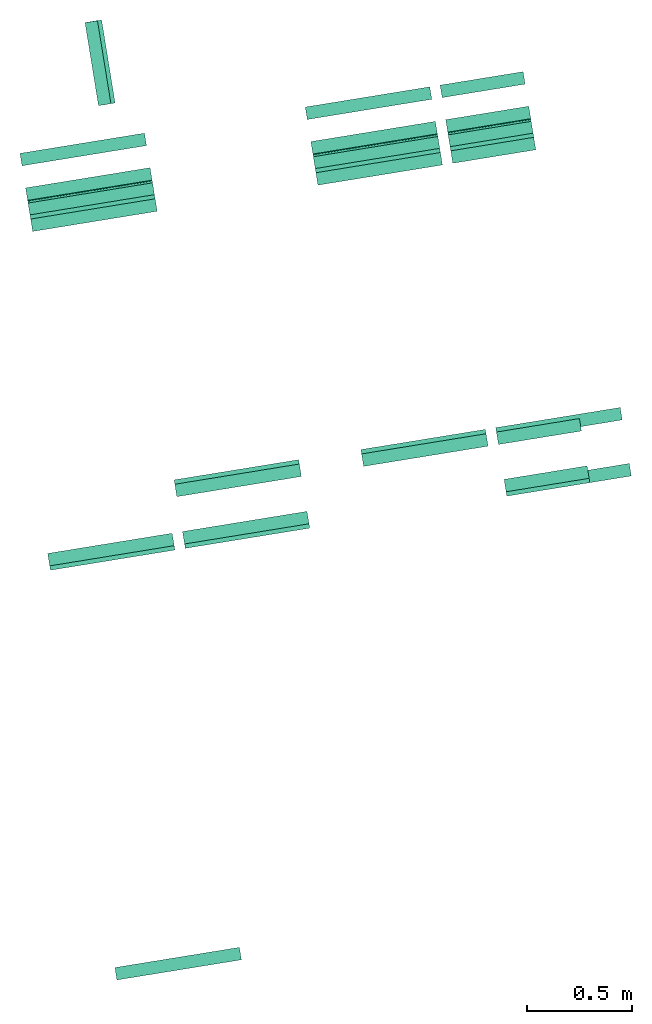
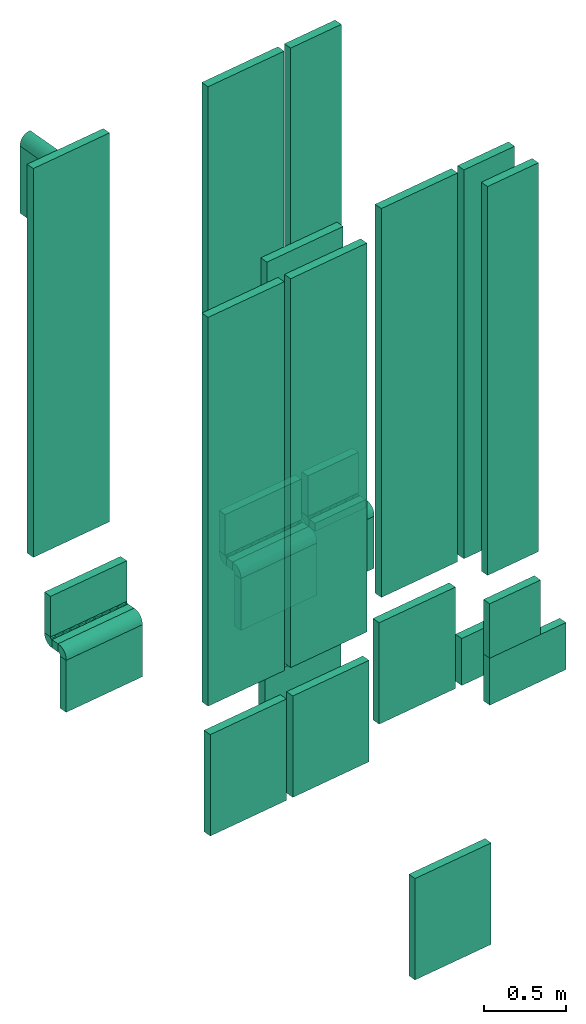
# One storey: 27 flow segments, 7 flow fittings.
"""IFC2X3 building model written with IfcOpenShell, lengths in millimetres."""

from ifc_helpers import new_model, entity, si_unit, converted_unit, derived_unit, direction, frame, frame_2d, origin, origin_with_axes, origin_2d_with_axis, place, context, subcontext, project, spatial, polyline, circle_curve, parameter, trimmed, segment, composite_curve, rectangle, outline, extrude, faceted_brep, source, transform, mapped, material, type_object, element, save


model = new_model("IFC2X3")

# Units and contexts
plan_context = context("Plan", 3, precision=1e-05, world=origin_with_axes())
model_context = context("Model", 3, precision=0.01, world=origin(), true_north=direction((6.12323399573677e-17, 1.0)))
body_context = subcontext(model_context, "Body", "Model", "MODEL_VIEW")
ifc_project = project(units=[converted_unit("PLANEANGLEUNIT", "DEGREE", entity("IfcPositiveLengthMeasure", 0.0174532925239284), si_unit("PLANEANGLEUNIT", "RADIAN"), dimensions=[0, 0, 0, 0, 0, 0, 0]), si_unit("AREAUNIT", "SQUARE_METRE"), si_unit("LENGTHUNIT", "METRE", prefix="MILLI"), si_unit("MASSUNIT", "GRAM", prefix="KILO"), si_unit("POWERUNIT", "WATT"), si_unit("PRESSUREUNIT", "PASCAL", prefix="KILO"), si_unit("FORCEUNIT", "NEWTON", prefix="KILO"), si_unit("ELECTRICVOLTAGEUNIT", "VOLT"), si_unit("ELECTRICCURRENTUNIT", "AMPERE"), si_unit("THERMODYNAMICTEMPERATUREUNIT", "DEGREE_CELSIUS"), si_unit("TIMEUNIT", "SECOND"), si_unit("VOLUMEUNIT", "CUBIC_METRE"), derived_unit("LINEARVELOCITYUNIT", [(si_unit("LENGTHUNIT", "METRE"), 1), (si_unit("TIMEUNIT", "SECOND"), -1)]), derived_unit("VOLUMETRICFLOWRATEUNIT", [(si_unit("VOLUMEUNIT", "CUBIC_METRE"), 1), (si_unit("TIMEUNIT", "SECOND"), -1)]), derived_unit("THERMALTRANSMITTANCEUNIT", [(si_unit("POWERUNIT", "WATT"), 1), (si_unit("THERMODYNAMICTEMPERATUREUNIT", "KELVIN"), -1), (si_unit("AREAUNIT", "SQUARE_METRE"), -1)]), derived_unit("SOUNDPRESSUREUNIT", [(si_unit("PRESSUREUNIT", "PASCAL"), 1)])], contexts=[model_context, plan_context])

# Site, building, storey
site_placement = place(None, frame((-0.219946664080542, 0.12226179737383, 0.0), z_axis=(0.0, 0.0, 1.0), x_axis=(-0.160236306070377, 0.987078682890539, 0.0)))
site = spatial("IfcSite", under=ifc_project, at=site_placement, Name="Default", CompositionType="ELEMENT")
building_placement = place(site_placement, origin_with_axes())
building = spatial("IfcBuilding", under=site, at=building_placement, CompositionType="ELEMENT")
storey_placement = place(building_placement, frame((0.0, 0.0, 44700.0000000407), z_axis=(0.0, 0.0, 1.0), x_axis=(1.0, 0.0, 0.0)))
storey = spatial("IfcBuildingStorey", under=building, at=storey_placement, Name="Nivå B", CompositionType="ELEMENT", Elevation=44700.0000000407)

# Flow fittings
ifc_material = material(Name="<Unnamed>")
cable_carrier_fitting_type_1 = type_object("IfcCableCarrierFittingType", Name="MC_Ladder Vertical Outside Bend:Standard 10mm", PredefinedType="NOTDEFINED", material=ifc_material)
shared_shape_1 = source(origin(), body_context, "Body", "SweptSolid", [
    extrude(outline(composite_curve([segment(polyline([(-27.5000000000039, -52.4999999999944), (-17.5000000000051, -52.4999999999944)]), True, "CONTINUOUS"), segment(trimmed(circle_curve(frame_2d((-17.4999999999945, 17.5000000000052), x_axis=(0.0, -1.0)), 69.9999999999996), [parameter(0.0)], [parameter(90.0)], True, "PARAMETER"), True, "CONTINUOUS"), segment(polyline([(52.5000000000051, 17.4999999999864), (52.5000000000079, 27.4999999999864)]), True, "CONTINUOUS"), segment(polyline([(52.5000000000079, 27.4999999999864), (-7.49999999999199, 27.5000000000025)]), True, "CONTINUOUS"), segment(polyline([(-7.49999999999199, 27.5000000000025), (-7.4999999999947, 17.5000000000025)]), True, "CONTINUOUS"), segment(trimmed(circle_curve(frame_2d((-17.4999999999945, 17.5000000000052), x_axis=(0.0, -1.0)), 9.99999999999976), [parameter(0.0)], [parameter(90.0)], True, "PARAMETER"), False, "CONTINUOUS"), segment(polyline([(-17.5000000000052, 7.50000000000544), (-27.5000000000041, 7.50000000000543)]), True, "CONTINUOUS"), segment(polyline([(-27.5000000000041, 7.50000000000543), (-27.5000000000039, -52.4999999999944)]), True, "CONTINUOUS")], self_intersect=False)), frame((-22.4999999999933, 22.4999999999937, -300.0)), (0.0, 0.0, 1.0), 600.0),
])
for number, where, z_axis, x_axis, name in (
    (1, (770497.097626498, -501552.493066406, 13709.999999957), (0.0, 1.0, 0.0), (0.0, 0.0, 1.0), "MC_Ladder Vertical Outside Bend:Standard 10mm"),
    (2, (770497.097626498, -502927.465783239, 13709.999999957), (0.0, 1.0, 0.0), (0.0, 0.0, 1.0), "MC_Ladder Vertical Outside Bend:Standard 10mm"),
):
    element("IfcFlowFitting", number, at=place(storey_placement, frame(where, z_axis=z_axis, x_axis=x_axis)), inside=storey, type_object=cable_carrier_fitting_type_1, material=ifc_material, Name=name, ObjectType="MC_Ladder Vertical Outside Bend:Standard 10mm", context=body_context, shape_type="MappedRepresentation", body=[
        mapped(shared_shape_1, transform((0.0, 0.0, 0.0), scale=1.0)),
    ])
cable_carrier_fitting_type_2 = type_object("IfcCableCarrierFittingType", Name="MC_Ladder Vertical Inside Bend_Short:Standard 10mm", PredefinedType="NOTDEFINED", material=ifc_material)
shared_shape_2 = source(origin(), body_context, "Body", "SweptSolid", [
    extrude(outline(composite_curve([segment(polyline([(-22.2500000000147, -50.7499999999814), (-19.2500000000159, -50.7499999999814)]), True, "CONTINUOUS"), segment(trimmed(circle_curve(frame_2d((-19.2499999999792, 19.2500000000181), x_axis=(0.0, -1.0)), 69.9999999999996), [parameter(0.0)], [parameter(90.0)], True, "PARAMETER"), True, "CONTINUOUS"), segment(polyline([(50.7500000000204, 19.2499999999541), (50.7500000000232, 22.2499999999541)]), True, "CONTINUOUS"), segment(polyline([(50.7500000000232, 22.2499999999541), (-9.24999999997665, 22.250000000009)]), True, "CONTINUOUS"), segment(polyline([(-9.24999999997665, 22.250000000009), (-9.2499999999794, 19.250000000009)]), True, "CONTINUOUS"), segment(trimmed(circle_curve(frame_2d((-19.2499999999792, 19.2500000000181), x_axis=(0.0, -1.0)), 9.99999999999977), [parameter(0.0)], [parameter(90.0)], True, "PARAMETER"), False, "CONTINUOUS"), segment(polyline([(-19.2500000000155, 9.25000000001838), (-22.2500000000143, 9.2500000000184)]), True, "CONTINUOUS"), segment(polyline([(-22.2500000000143, 9.2500000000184), (-22.2500000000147, -50.7499999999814)]), True, "CONTINUOUS")], self_intersect=False)), frame((-20.7499999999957, 20.7499999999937, -300.0)), (0.0, 0.0, 1.0), 600.000000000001),
])
for number, where, z_axis, x_axis, name in (
    (3, (770647.11956929, -501552.493066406, 13709.9999999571), (0.0, -1.0, 0.0), (1.0, 0.0, 0.0), "MC_Ladder Vertical Inside Bend_Short:Standard 10mm"),
    (4, (770647.11956929, -502927.465783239, 13709.9999999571), (0.0, -1.0, 0.0), (1.0, 0.0, 0.0), "MC_Ladder Vertical Inside Bend_Short:Standard 10mm"),
):
    element("IfcFlowFitting", number, at=place(storey_placement, frame(where, z_axis=z_axis, x_axis=x_axis)), inside=storey, type_object=cable_carrier_fitting_type_2, material=ifc_material, Name=name, ObjectType="MC_Ladder Vertical Inside Bend_Short:Standard 10mm", context=body_context, shape_type="MappedRepresentation", body=[
        mapped(shared_shape_2, transform((0.0, 0.0, 0.0), scale=1.0)),
    ])
cable_carrier_fitting_type_3 = type_object("IfcCableCarrierFittingType", Name="MC_Ladder Vertical Outside Bend:Standard 10mm", PredefinedType="NOTDEFINED", material=ifc_material)
shared_shape_3 = source(origin(), body_context, "Body", "SweptSolid", [
    extrude(outline(composite_curve([segment(polyline([(-27.5000000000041, -52.4999999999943), (-17.5000000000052, -52.4999999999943)]), True, "CONTINUOUS"), segment(trimmed(circle_curve(frame_2d((-17.4999999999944, 17.5000000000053), x_axis=(0.0, -1.0)), 69.9999999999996), [parameter(0.0)], [parameter(90.0)], True, "PARAMETER"), True, "CONTINUOUS"), segment(polyline([(52.5000000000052, 17.4999999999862), (52.5000000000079, 27.4999999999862)]), True, "CONTINUOUS"), segment(polyline([(52.5000000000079, 27.4999999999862), (-7.49999999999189, 27.5000000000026)]), True, "CONTINUOUS"), segment(polyline([(-7.49999999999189, 27.5000000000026), (-7.49999999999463, 17.5000000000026)]), True, "CONTINUOUS"), segment(trimmed(circle_curve(frame_2d((-17.4999999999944, 17.5000000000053), x_axis=(0.0, -1.0)), 9.99999999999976), [parameter(0.0)], [parameter(90.0)], True, "PARAMETER"), False, "CONTINUOUS"), segment(polyline([(-17.5000000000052, 7.50000000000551), (-27.500000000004, 7.50000000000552)]), True, "CONTINUOUS"), segment(polyline([(-27.500000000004, 7.50000000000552), (-27.5000000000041, -52.4999999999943)]), True, "CONTINUOUS")], self_intersect=False)), frame((-22.4999999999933, 22.4999999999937, -200.0)), (0.0, 0.0, 1.0), 400.0),
])
for number, where, z_axis, x_axis, name in (
    (5, (770497.097626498, -503477.47265625, 13709.9999999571), (0.0, 1.0, 0.0), (0.0, 0.0, 1.0), "MC_Ladder Vertical Outside Bend:Standard 10mm"),
    (6, (771207.619460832, -501687.480498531, 16849.9999999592), (0.999999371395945, -2.77555581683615e-17, 0.00112125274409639), (-0.00112125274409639, 2.71050543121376e-20, 0.999999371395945), "MC_Ladder Vertical Outside Bend:Standard 10mm"),
):
    element("IfcFlowFitting", number, at=place(storey_placement, frame(where, z_axis=z_axis, x_axis=x_axis)), inside=storey, type_object=cable_carrier_fitting_type_3, material=ifc_material, Name=name, ObjectType="MC_Ladder Vertical Outside Bend:Standard 10mm", context=body_context, shape_type="MappedRepresentation", body=[
        mapped(shared_shape_3, transform((0.0, 0.0, 0.0), scale=1.0)),
    ])
cable_carrier_fitting_type_4 = type_object("IfcCableCarrierFittingType", Name="MC_Ladder Vertical Inside Bend_Short:Standard 10mm", PredefinedType="NOTDEFINED", material=ifc_material)
shared_shape_4 = source(origin(), body_context, "Body", "SweptSolid", [
    extrude(outline(composite_curve([segment(polyline([(-22.2500000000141, -50.7499999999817), (-19.2500000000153, -50.7499999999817)]), True, "CONTINUOUS"), segment(trimmed(circle_curve(frame_2d((-19.2499999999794, 19.2500000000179), x_axis=(0.0, -1.0)), 69.9999999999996), [parameter(0.0)], [parameter(90.0)], True, "PARAMETER"), True, "CONTINUOUS"), segment(polyline([(50.7500000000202, 19.2499999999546), (50.7500000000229, 22.2499999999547)]), True, "CONTINUOUS"), segment(polyline([(50.750000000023, 22.2499999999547), (-9.24999999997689, 22.2500000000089)]), True, "CONTINUOUS"), segment(polyline([(-9.24999999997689, 22.2500000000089), (-9.24999999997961, 19.2500000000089)]), True, "CONTINUOUS"), segment(trimmed(circle_curve(frame_2d((-19.2499999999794, 19.2500000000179), x_axis=(0.0, -1.0)), 9.99999999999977), [parameter(0.0)], [parameter(90.0)], True, "PARAMETER"), False, "CONTINUOUS"), segment(polyline([(-19.2500000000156, 9.25000000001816), (-22.2500000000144, 9.25000000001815)]), True, "CONTINUOUS"), segment(polyline([(-22.2500000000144, 9.25000000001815), (-22.2500000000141, -50.7499999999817)]), True, "CONTINUOUS")], self_intersect=False)), frame((-20.7499999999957, 20.7499999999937, -200.0)), (0.0, 0.0, 1.0), 400.0),
])
flow_fitting_placement = place(storey_placement, frame((770647.11956929, -503477.47265625, 13709.9999999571), z_axis=(0.0, -1.0, 0.0), x_axis=(1.0, 0.0, 0.0)))
element("IfcFlowFitting", 7, at=flow_fitting_placement, inside=storey, type_object=cable_carrier_fitting_type_4, material=ifc_material, Name="MC_Ladder Vertical Inside Bend_Short:Standard 10mm", ObjectType="MC_Ladder Vertical Inside Bend_Short:Standard 10mm", context=body_context, shape_type="MappedRepresentation", body=[
    mapped(shared_shape_4, transform((0.0, 0.0, 0.0), scale=1.0)),
])

# Flow segments
cable_carrier_segment_type = type_object("IfcCableCarrierSegmentType", Name="Cable Tray with Fittings:Kabelbro", PredefinedType="CABLETRAYSEGMENT")
flow_segment_1_placement = place(storey_placement, origin_with_axes())
element("IfcFlowSegment", 8, at=flow_segment_1_placement, inside=storey, type_object=cable_carrier_segment_type, Name="Cable Tray with Fittings:Kabelbro", ObjectType="Cable Tray with Fittings:Kabelbro", context=body_context, shape_type="SweptSolid", body=[
    extrude(rectangle(XDim=600.000000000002, YDim=59.9999999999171, at=origin_2d_with_axis()), frame((769141.619644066, -502927.465820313, 14255.0), z_axis=(0.0, 0.0, 1.0), x_axis=(0.0, -1.0, 0.0)), (0.0, 0.0, 1.0), 2894.99999995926),
])
flow_segment_2_placement = place(storey_placement, origin_with_axes())
element("IfcFlowSegment", 9, at=flow_segment_2_placement, inside=storey, type_object=cable_carrier_segment_type, Name="Cable Tray with Fittings:Kabelbro", ObjectType="Cable Tray with Fittings:Kabelbro", context=body_context, shape_type="SweptSolid", body=[
    extrude(rectangle(XDim=400.000000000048, YDim=59.9999999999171, at=origin_2d_with_axis()), frame((769141.619644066, -503477.473242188, 14255.0), z_axis=(0.0, 0.0, 1.0), x_axis=(0.0, -1.0, 0.0)), (0.0, 0.0, 1.0), 2894.99999995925),
])
flow_segment_3_placement = place(storey_placement, origin_with_axes())
element("IfcFlowSegment", 10, at=flow_segment_3_placement, inside=storey, type_object=cable_carrier_segment_type, Name="Cable Tray with Fittings:Kabelbro", ObjectType="Cable Tray with Fittings:Kabelbro", context=body_context, shape_type="SweptSolid", body=[
    extrude(rectangle(XDim=600.000000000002, YDim=59.9999999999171, at=origin_2d_with_axis()), frame((770813.619644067, -502927.465783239, 14254.9999999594), z_axis=(0.0, 0.0, 1.0), x_axis=(0.0, -1.0, 0.0)), (0.0, 0.0, 1.0), 2894.99999999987),
])
flow_segment_4_placement = place(storey_placement, origin_with_axes())
element("IfcFlowSegment", 11, at=flow_segment_4_placement, inside=storey, type_object=cable_carrier_segment_type, Name="Cable Tray with Fittings:Kabelbro", ObjectType="Cable Tray with Fittings:Kabelbro", context=body_context, shape_type="SweptSolid", body=[
    extrude(rectangle(XDim=400.000000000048, YDim=59.9999999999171, at=origin_2d_with_axis()), frame((770813.619644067, -503477.472656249, 14254.9999999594), z_axis=(0.0, 0.0, 1.0), x_axis=(0.0, -1.0, 0.0)), (0.0, 0.0, 1.0), 2894.99999999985),
])
flow_segment_5_placement = place(storey_placement, origin_with_axes())
element("IfcFlowSegment", 12, at=flow_segment_5_placement, inside=storey, type_object=cable_carrier_segment_type, Name="Cable Tray with Fittings:Kabelbro", ObjectType="Cable Tray with Fittings:Kabelbro", context=body_context, shape_type="SweptSolid", body=[
    extrude(rectangle(XDim=600.000000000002, YDim=59.9999999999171, at=origin_2d_with_axis()), frame((770813.619644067, -501552.493066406, 14254.9999999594), z_axis=(0.0, 0.0, 1.0), x_axis=(0.0, -1.0, 0.0)), (0.0, 0.0, 1.0), 2894.99999999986),
])
flow_segment_6_placement = place(storey_placement, origin_with_axes())
element("IfcFlowSegment", 13, at=flow_segment_6_placement, inside=storey, type_object=cable_carrier_segment_type, Name="Cable Tray with Fittings:Kabelbro", ObjectType="Cable Tray with Fittings:Kabelbro", context=body_context, shape_type="SweptSolid", body=[
    extrude(rectangle(XDim=400.000000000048, YDim=59.9999999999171, at=origin_2d_with_axis()), frame((768913.619644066, -503477.473242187, 14254.9999999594), z_axis=(0.0, 0.0, 1.0), x_axis=(0.0, -1.0, 0.0)), (0.0, 0.0, 1.0), 2894.99999999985),
])
flow_segment_7_placement = place(storey_placement, origin_with_axes())
element("IfcFlowSegment", 14, at=flow_segment_7_placement, inside=storey, type_object=cable_carrier_segment_type, Name="Cable Tray with Fittings:Kabelbro", ObjectType="Cable Tray with Fittings:Kabelbro", context=body_context, shape_type="SweptSolid", body=[
    extrude(rectangle(XDim=600.000000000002, YDim=59.9999999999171, at=origin_2d_with_axis()), frame((768913.619644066, -502027.470605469, 14254.9999999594), z_axis=(0.0, 0.0, 1.0), x_axis=(0.0, -1.0, 0.0)), (0.0, 0.0, 1.0), 2894.99999999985),
])
flow_segment_8_placement = place(storey_placement, origin_with_axes())
element("IfcFlowSegment", 15, at=flow_segment_8_placement, inside=storey, type_object=cable_carrier_segment_type, Name="Cable Tray with Fittings:Kabelbro", ObjectType="Cable Tray with Fittings:Kabelbro", context=body_context, shape_type="SweptSolid", body=[
    extrude(rectangle(XDim=600.000000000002, YDim=59.9999999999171, at=origin_2d_with_axis()), frame((768913.619644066, -501377.470605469, 14254.9999999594), z_axis=(0.0, 0.0, 1.0), x_axis=(0.0, -1.0, 0.0)), (0.0, 0.0, 1.0), 2894.99999999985),
])
flow_segment_9_placement = place(storey_placement, origin_with_axes())
element("IfcFlowSegment", 16, at=flow_segment_9_placement, inside=storey, type_object=cable_carrier_segment_type, Name="Cable Tray with Fittings:Kabelbro", ObjectType="Cable Tray with Fittings:Kabelbro", context=body_context, shape_type="SweptSolid", body=[
    extrude(rectangle(XDim=600.000000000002, YDim=59.9999999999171, at=origin_2d_with_axis()), frame((769141.619644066, -502027.470605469, 14255.0), z_axis=(0.0, 0.0, 1.0), x_axis=(0.0, -1.0, 0.0)), (0.0, 0.0, 1.0), 2894.99999995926),
])
flow_segment_10_placement = place(storey_placement, origin_with_axes())
element("IfcFlowSegment", 17, at=flow_segment_10_placement, inside=storey, type_object=cable_carrier_segment_type, Name="Cable Tray with Fittings:Kabelbro", ObjectType="Cable Tray with Fittings:Kabelbro", context=body_context, shape_type="SweptSolid", body=[
    extrude(rectangle(XDim=600.000000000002, YDim=59.9999999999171, at=origin_2d_with_axis()), frame((770497.097626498, -501552.493066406, 13272.999999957), z_axis=(0.0, 0.0, 1.0), x_axis=(0.0, 1.0, 0.0)), (0.0, 0.0, 1.0), 387.000000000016),
])
flow_segment_11_placement = place(storey_placement, origin_with_axes())
element("IfcFlowSegment", 18, at=flow_segment_11_placement, inside=storey, type_object=cable_carrier_segment_type, Name="Cable Tray with Fittings:Kabelbro", ObjectType="Cable Tray with Fittings:Kabelbro", context=body_context, shape_type="SweptSolid", body=[
    extrude(rectangle(XDim=57.0219427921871, YDim=600.000000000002, at=frame_2d((-6.93045620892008e-11, -3.46460637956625e-11), x_axis=(1.0, 0.0))), frame((770575.608597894, -501552.493066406, 13679.9999999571)), (0.0, 0.0, 1.0), 60.0000000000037),
])
flow_segment_12_placement = place(storey_placement, origin_with_axes())
element("IfcFlowSegment", 19, at=flow_segment_12_placement, inside=storey, type_object=cable_carrier_segment_type, Name="Cable Tray with Fittings:Kabelbro", ObjectType="Cable Tray with Fittings:Kabelbro", context=body_context, shape_type="SweptSolid", body=[
    extrude(rectangle(XDim=600.000000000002, YDim=59.9999999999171, at=origin_2d_with_axis()), frame((770647.11956929, -501552.493066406, 13752.999999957), z_axis=(0.0, 0.0, 1.0), x_axis=(0.0, 1.0, 0.0)), (0.0, 0.0, 1.0), 301.999999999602),
])
flow_segment_13_placement = place(storey_placement, origin_with_axes())
element("IfcFlowSegment", 20, at=flow_segment_13_placement, inside=storey, type_object=cable_carrier_segment_type, Name="Cable Tray with Fittings:Kabelbro", ObjectType="Cable Tray with Fittings:Kabelbro", context=body_context, shape_type="SweptSolid", body=[
    extrude(rectangle(XDim=600.000000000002, YDim=59.9999999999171, at=origin_2d_with_axis()), frame((770497.097626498, -502927.465783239, 13272.9999999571), z_axis=(0.0, 0.0, 1.0), x_axis=(0.0, -1.0, 0.0)), (0.0, 0.0, 1.0), 386.99999999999),
])
flow_segment_14_placement = place(storey_placement, origin_with_axes())
element("IfcFlowSegment", 21, at=flow_segment_14_placement, inside=storey, type_object=cable_carrier_segment_type, Name="Cable Tray with Fittings:Kabelbro", ObjectType="Cable Tray with Fittings:Kabelbro", context=body_context, shape_type="SweptSolid", body=[
    extrude(rectangle(XDim=57.0219427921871, YDim=600.000000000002, at=frame_2d((6.93027857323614e-11, 0.0), x_axis=(1.0, 0.0))), frame((770575.608597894, -502927.465783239, 13679.9999999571)), (0.0, 0.0, 1.0), 60.0000000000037),
])
flow_segment_15_placement = place(storey_placement, origin_with_axes())
element("IfcFlowSegment", 22, at=flow_segment_15_placement, inside=storey, type_object=cable_carrier_segment_type, Name="Cable Tray with Fittings:Kabelbro", ObjectType="Cable Tray with Fittings:Kabelbro", context=body_context, shape_type="SweptSolid", body=[
    extrude(rectangle(XDim=600.000000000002, YDim=59.9999999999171, at=origin_2d_with_axis()), frame((770647.11956929, -502927.465783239, 13752.9999999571), z_axis=(0.0, 0.0, 1.0), x_axis=(0.0, 1.0, 0.0)), (0.0, 0.0, 1.0), 301.999999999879),
])
flow_segment_16_placement = place(storey_placement, origin_with_axes())
element("IfcFlowSegment", 23, at=flow_segment_16_placement, inside=storey, type_object=cable_carrier_segment_type, Name="Cable Tray with Fittings:Kabelbro", ObjectType="Cable Tray with Fittings:Kabelbro", context=body_context, shape_type="SweptSolid", body=[
    extrude(rectangle(XDim=400.000000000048, YDim=59.9999999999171, at=origin_2d_with_axis()), frame((770497.097626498, -503477.47265625, 13272.9999999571), z_axis=(0.0, 0.0, 1.0), x_axis=(0.0, 1.0, 0.0)), (0.0, 0.0, 1.0), 387.000000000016),
])
flow_segment_17_placement = place(storey_placement, origin_with_axes())
element("IfcFlowSegment", 24, at=flow_segment_17_placement, inside=storey, type_object=cable_carrier_segment_type, Name="Cable Tray with Fittings:Kabelbro", ObjectType="Cable Tray with Fittings:Kabelbro", context=body_context, shape_type="SweptSolid", body=[
    extrude(rectangle(XDim=57.0219427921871, YDim=400.000000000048, at=frame_2d((6.93027857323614e-11, -6.93063384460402e-11), x_axis=(1.0, 0.0))), frame((770575.608597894, -503477.47265625, 13679.9999999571)), (0.0, 0.0, 1.0), 60.0000000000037),
])
flow_segment_18_placement = place(storey_placement, origin_with_axes())
element("IfcFlowSegment", 25, at=flow_segment_18_placement, inside=storey, type_object=cable_carrier_segment_type, Name="Cable Tray with Fittings:Kabelbro", ObjectType="Cable Tray with Fittings:Kabelbro", context=body_context, shape_type="SweptSolid", body=[
    extrude(rectangle(XDim=400.000000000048, YDim=59.9999999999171, at=origin_2d_with_axis()), frame((770647.11956929, -503477.47265625, 13752.9999999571), z_axis=(0.0, 0.0, 1.0), x_axis=(0.0, 1.0, 0.0)), (0.0, 0.0, 1.0), 301.999999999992),
])
flow_segment_19_placement = place(storey_placement, origin_with_axes())
element("IfcFlowSegment", 26, at=flow_segment_19_placement, inside=storey, type_object=cable_carrier_segment_type, Name="Cable Tray with Fittings:Kabelbro", ObjectType="Cable Tray with Fittings:Kabelbro", context=body_context, shape_type="SweptSolid", body=[
    extrude(rectangle(XDim=400.000000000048, YDim=59.9999999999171, at=origin_2d_with_axis()), frame((768892.619644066, -503477.473242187, 13650.0), z_axis=(0.0, 0.0, 1.0), x_axis=(0.0, -1.0, 0.0)), (0.0, 0.0, 1.0), 404.999999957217),
])
flow_segment_20_placement = place(storey_placement, origin_with_axes())
element("IfcFlowSegment", 27, at=flow_segment_20_placement, inside=storey, type_object=cable_carrier_segment_type, Name="Cable Tray with Fittings:Kabelbro", ObjectType="Cable Tray with Fittings:Kabelbro", context=body_context, shape_type="SweptSolid", body=[
    extrude(rectangle(XDim=400.00000000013, YDim=60.0000000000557, at=frame_2d((6.93027857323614e-11, 0.0), x_axis=(0.0, 1.0))), frame((771208.236150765, -501687.480498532, 16299.9995222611), z_axis=(-0.00112125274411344, 0.0, 0.999999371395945), x_axis=(0.0, 1.0, 0.0)), (0.0, 0.0, 1.0), 500.000823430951),
])
flow_segment_21_placement = place(storey_placement, origin_with_axes())
element("IfcFlowSegment", 28, at=flow_segment_21_placement, inside=storey, type_object=cable_carrier_segment_type, Name="Cable Tray with Fittings:Kabelbro", ObjectType="Cable Tray with Fittings:Kabelbro", context=body_context, shape_type="Brep", body=[
    faceted_brep([(769132.619644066, -502627.465820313, 13299.9999999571), (769192.619644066, -502627.465820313, 13299.9999999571), (769192.619644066, -502627.465820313, 14054.9999999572), (769132.619644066, -502627.465820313, 14054.9999999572), (769132.619644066, -503227.465820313, 13299.9999999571), (769132.619644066, -503227.465820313, 14054.9999999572), (769192.619644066, -503227.465820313, 13299.9999999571), (769192.619644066, -503227.465820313, 14054.9999999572)], [[[0, 1, 2, 3]], [[4, 0, 3, 5]], [[6, 4, 5, 7]], [[1, 6, 7, 2]], [[3, 2, 7, 5]], [[4, 6, 1, 0]]], orient=[[False], [False], [False], [False], [False], [False]]),
])
flow_segment_22_placement = place(storey_placement, origin_with_axes())
element("IfcFlowSegment", 29, at=flow_segment_22_placement, inside=storey, type_object=cable_carrier_segment_type, Name="Cable Tray with Fittings:Kabelbro", ObjectType="Cable Tray with Fittings:Kabelbro", context=body_context, shape_type="Brep", body=[
    faceted_brep([(769132.619644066, -501727.470605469, 13299.9999999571), (769192.619644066, -501727.470605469, 13299.9999999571), (769192.619644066, -501727.470605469, 14054.9999999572), (769132.619644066, -501727.470605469, 14054.9999999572), (769132.619644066, -502327.470605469, 13299.9999999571), (769132.619644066, -502327.470605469, 14054.9999999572), (769192.619644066, -502327.470605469, 13299.9999999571), (769192.619644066, -502327.470605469, 14054.9999999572)], [[[0, 1, 2, 3]], [[4, 0, 3, 5]], [[6, 4, 5, 7]], [[1, 6, 7, 2]], [[3, 2, 7, 5]], [[4, 6, 1, 0]]], orient=[[False], [False], [False], [False], [False], [False]]),
])
flow_segment_23_placement = place(storey_placement, origin_with_axes())
element("IfcFlowSegment", 30, at=flow_segment_23_placement, inside=storey, type_object=cable_carrier_segment_type, Name="Cable Tray with Fittings:Kabelbro", ObjectType="Cable Tray with Fittings:Kabelbro", context=body_context, shape_type="Brep", body=[
    faceted_brep([(768862.619644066, -501077.470605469, 13299.9999999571), (768922.619644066, -501077.470605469, 13299.9999999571), (768922.619644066, -501077.470605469, 14054.9999999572), (768862.619644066, -501077.470605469, 14054.9999999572), (768862.619644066, -501677.470605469, 13299.9999999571), (768862.619644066, -501677.470605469, 14054.9999999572), (768922.619644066, -501677.470605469, 13299.9999999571), (768922.619644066, -501677.470605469, 14054.9999999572)], [[[0, 1, 2, 3]], [[4, 0, 3, 5]], [[6, 4, 5, 7]], [[1, 6, 7, 2]], [[3, 2, 7, 5]], [[4, 6, 1, 0]]], orient=[[False], [False], [False], [False], [False], [False]]),
])
flow_segment_24_placement = place(storey_placement, origin_with_axes())
element("IfcFlowSegment", 31, at=flow_segment_24_placement, inside=storey, type_object=cable_carrier_segment_type, Name="Cable Tray with Fittings:Kabelbro", ObjectType="Cable Tray with Fittings:Kabelbro", context=body_context, shape_type="Brep", body=[
    faceted_brep([(768862.619644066, -501727.470605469, 13299.9999999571), (768922.619644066, -501727.470605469, 13299.9999999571), (768922.619644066, -501727.470605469, 14054.9999999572), (768862.619644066, -501727.470605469, 14054.9999999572), (768862.619644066, -502327.470605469, 13299.9999999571), (768862.619644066, -502327.470605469, 14054.9999999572), (768922.619644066, -502327.470605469, 13299.9999999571), (768922.619644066, -502327.470605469, 14054.9999999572)], [[[0, 1, 2, 3]], [[4, 0, 3, 5]], [[6, 4, 5, 7]], [[1, 6, 7, 2]], [[3, 2, 7, 5]], [[4, 6, 1, 0]]], orient=[[False], [False], [False], [False], [False], [False]]),
])
flow_segment_25_placement = place(storey_placement, origin_with_axes())
element("IfcFlowSegment", 32, at=flow_segment_25_placement, inside=storey, type_object=cable_carrier_segment_type, Name="Cable Tray with Fittings:Kabelbro", ObjectType="Cable Tray with Fittings:Kabelbro", context=body_context, shape_type="Brep", body=[
    faceted_brep([(766947.619644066, -501677.470605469, 13299.9999999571), (766887.619644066, -501677.470605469, 13299.9999999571), (766887.619644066, -501677.470605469, 14054.9999999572), (766947.619644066, -501677.470605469, 14054.9999999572), (766947.619644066, -501077.470605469, 13299.9999999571), (766947.619644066, -501077.470605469, 14054.9999999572), (766887.619644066, -501077.470605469, 13299.9999999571), (766887.619644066, -501077.470605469, 14054.9999999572)], [[[0, 1, 2, 3]], [[4, 0, 3, 5]], [[6, 4, 5, 7]], [[1, 6, 7, 2]], [[3, 2, 7, 5]], [[4, 6, 1, 0]]], orient=[[False], [False], [False], [False], [False], [False]]),
])
flow_segment_26_placement = place(storey_placement, origin_with_axes())
element("IfcFlowSegment", 33, at=flow_segment_26_placement, inside=storey, type_object=cable_carrier_segment_type, Name="Cable Tray with Fittings:Kabelbro", ObjectType="Cable Tray with Fittings:Kabelbro", context=body_context, shape_type="Brep", body=[
    faceted_brep([(768862.619644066, -503277.473242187, 13299.9999999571), (768922.619644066, -503277.473242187, 13299.9999999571), (768922.619644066, -503277.473242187, 13650.0), (768862.619644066, -503277.473242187, 13650.0), (768862.619644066, -503877.473242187, 13299.9999999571), (768862.619644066, -503877.473242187, 13650.0), (768922.619644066, -503877.473242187, 13299.9999999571), (768922.619644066, -503877.473242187, 13650.0)], [[[0, 1, 2, 3]], [[4, 0, 3, 5]], [[6, 4, 5, 7]], [[1, 6, 7, 2]], [[3, 2, 7, 5]], [[4, 6, 1, 0]]], orient=[[False], [False], [False], [False], [False], [False]]),
])
flow_segment_27_placement = place(storey_placement, origin_with_axes())
element("IfcFlowSegment", 34, at=flow_segment_27_placement, inside=storey, type_object=cable_carrier_segment_type, Name="Cable Tray with Fittings:Kabelbro", ObjectType="Cable Tray with Fittings:Kabelbro", context=body_context, shape_type="Brep", body=[
    faceted_brep([(769132.619644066, -503277.473242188, 13299.9999999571), (769192.619644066, -503277.473242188, 13299.9999999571), (769192.619644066, -503277.473242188, 13650.0), (769132.619644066, -503277.473242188, 13650.0), (769132.619644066, -503877.473242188, 13299.9999999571), (769132.619644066, -503877.473242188, 13650.0), (769192.619644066, -503877.473242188, 13299.9999999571), (769192.619644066, -503877.473242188, 13650.0)], [[[0, 1, 2, 3]], [[4, 0, 3, 5]], [[6, 4, 5, 7]], [[1, 6, 7, 2]], [[3, 2, 7, 5]], [[4, 6, 1, 0]]], orient=[[False], [False], [False], [False], [False], [False]]),
])

save(model, "model.ifc")
